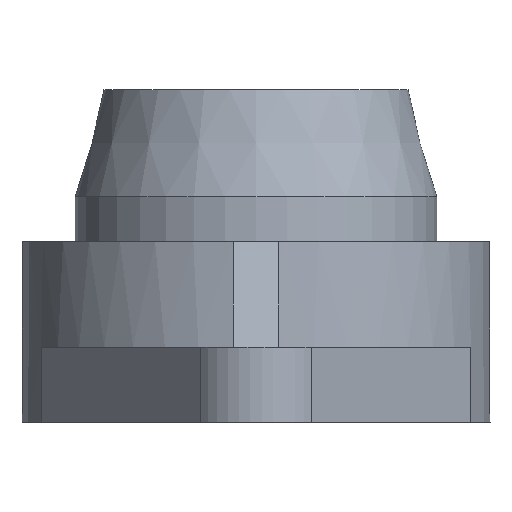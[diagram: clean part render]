
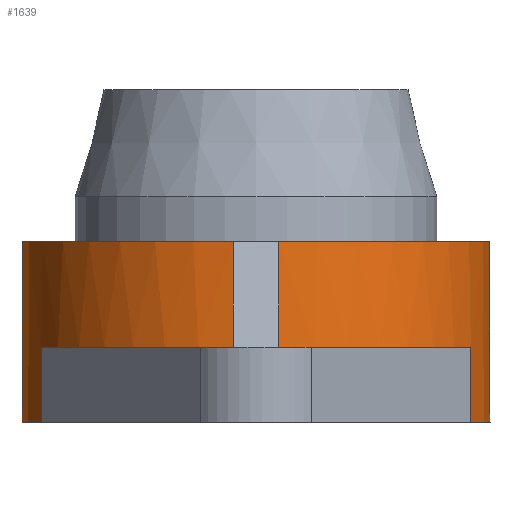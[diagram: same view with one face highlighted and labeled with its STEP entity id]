
A CAD part, front view. The second image highlights one B-rep face of the part: STEP entity #1639.
In plain terms, the highlighted cylindrical face has radius 41.5 mm (diameter 83 mm), a partial arc.
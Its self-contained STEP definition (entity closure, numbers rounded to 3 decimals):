
#132=FACE_BOUND('',#265,.T.);
#167=FACE_OUTER_BOUND('',#264,.T.);
#264=EDGE_LOOP('',(#1093,#1094,#1095,#1096,#1097,#1098,#1099,#1100));
#265=EDGE_LOOP('',(#1101,#1102));
#389=B_SPLINE_CURVE_WITH_KNOTS('',3,(#2636,#2637,#2638,#2639,#2640,#2641,
#2642,#2643,#2644,#2645,#2646,#2647,#2648,#2649,#2650,#2651,#2652,#2653),
 .UNSPECIFIED.,.F.,.F.,(4,2,2,2,2,2,2,2,4),(0.375,0.469,
0.563,0.656,0.75,0.844,
0.938,1.032,1.125),.UNSPECIFIED.);
#390=B_SPLINE_CURVE_WITH_KNOTS('',3,(#2654,#2655,#2656,#2657,#2658,#2659,
#2660,#2661,#2662,#2663,#2664,#2665,#2666,#2667,#2668,#2669,#2670,#2671,
#2672),.UNSPECIFIED.,.F.,.F.,(4,2,2,2,3,2,2,2,4),(1.125,1.219,
1.313,1.407,1.501,1.594,1.688,
1.782,1.876),.UNSPECIFIED.);
#402=LINE('',#2620,#491);
#403=LINE('',#2624,#492);
#404=LINE('',#2628,#493);
#405=LINE('',#2632,#494);
#491=VECTOR('',#2075,10.);
#492=VECTOR('',#2078,10.);
#493=VECTOR('',#2081,10.);
#494=VECTOR('',#2084,10.);
#586=CIRCLE('',#1851,41.5);
#587=CIRCLE('',#1852,41.5);
#588=CIRCLE('',#1853,41.5);
#589=CIRCLE('',#1854,41.5);
#693=VERTEX_POINT('',#2618);
#694=VERTEX_POINT('',#2619);
#695=VERTEX_POINT('',#2621);
#696=VERTEX_POINT('',#2623);
#697=VERTEX_POINT('',#2625);
#698=VERTEX_POINT('',#2627);
#699=VERTEX_POINT('',#2629);
#700=VERTEX_POINT('',#2631);
#701=VERTEX_POINT('',#2634);
#702=VERTEX_POINT('',#2635);
#856=EDGE_CURVE('',#693,#694,#402,.T.);
#857=EDGE_CURVE('',#695,#694,#586,.T.);
#858=EDGE_CURVE('',#696,#695,#403,.T.);
#859=EDGE_CURVE('',#696,#697,#587,.T.);
#860=EDGE_CURVE('',#697,#698,#404,.T.);
#861=EDGE_CURVE('',#699,#698,#588,.T.);
#862=EDGE_CURVE('',#699,#700,#405,.T.);
#863=EDGE_CURVE('',#700,#693,#589,.T.);
#864=EDGE_CURVE('',#701,#702,#389,.T.);
#865=EDGE_CURVE('',#702,#701,#390,.T.);
#1093=ORIENTED_EDGE('',*,*,#856,.T.);
#1094=ORIENTED_EDGE('',*,*,#857,.F.);
#1095=ORIENTED_EDGE('',*,*,#858,.F.);
#1096=ORIENTED_EDGE('',*,*,#859,.T.);
#1097=ORIENTED_EDGE('',*,*,#860,.T.);
#1098=ORIENTED_EDGE('',*,*,#861,.F.);
#1099=ORIENTED_EDGE('',*,*,#862,.T.);
#1100=ORIENTED_EDGE('',*,*,#863,.T.);
#1101=ORIENTED_EDGE('',*,*,#864,.T.);
#1102=ORIENTED_EDGE('',*,*,#865,.T.);
#1546=CYLINDRICAL_SURFACE('',#1850,41.5);
#1639=ADVANCED_FACE('',(#167,#132),#1546,.T.);
#1850=AXIS2_PLACEMENT_3D('',#2617,#2073,#2074);
#1851=AXIS2_PLACEMENT_3D('',#2622,#2076,#2077);
#1852=AXIS2_PLACEMENT_3D('',#2626,#2079,#2080);
#1853=AXIS2_PLACEMENT_3D('',#2630,#2082,#2083);
#1854=AXIS2_PLACEMENT_3D('',#2633,#2085,#2086);
#2073=DIRECTION('center_axis',(0.,0.,1.));
#2074=DIRECTION('ref_axis',(0.,1.,0.));
#2075=DIRECTION('',(0.,0.,-1.));
#2076=DIRECTION('center_axis',(0.,0.,
-1.));
#2077=DIRECTION('ref_axis',(-1.,0.,0.));
#2078=DIRECTION('',(0.,0.,1.));
#2079=DIRECTION('center_axis',(0.,0.,1.));
#2080=DIRECTION('ref_axis',(0.916,-0.402,0.));
#2081=DIRECTION('',(0.,0.,1.));
#2082=DIRECTION('center_axis',(0.,0.,
-1.));
#2083=DIRECTION('ref_axis',(-1.,0.,0.));
#2084=DIRECTION('',(0.,0.,1.));
#2085=DIRECTION('center_axis',(0.,0.,-1.));
#2086=DIRECTION('ref_axis',(-1.,0.,0.));
#2617=CARTESIAN_POINT('Origin',(0.,0.,-19.3));
#2618=CARTESIAN_POINT('',(4.,-41.307,12.7));
#2619=CARTESIAN_POINT('',(4.,-41.307,-6.));
#2620=CARTESIAN_POINT('',(4.,-41.307,-19.3));
#2621=CARTESIAN_POINT('',(38.,-16.681,-6.));
#2622=CARTESIAN_POINT('Origin',(0.,0.,-6.));
#2623=CARTESIAN_POINT('',(38.,-16.681,-19.3));
#2624=CARTESIAN_POINT('',(38.,-16.681,-19.3));
#2625=CARTESIAN_POINT('',(-38.,-16.681,-19.3));
#2626=CARTESIAN_POINT('Origin',(0.,0.,-19.3));
#2627=CARTESIAN_POINT('',(-38.,-16.681,-6.));
#2628=CARTESIAN_POINT('',(-38.,-16.681,-19.3));
#2629=CARTESIAN_POINT('',(-4.,-41.307,-6.));
#2630=CARTESIAN_POINT('Origin',(0.,0.,-6.));
#2631=CARTESIAN_POINT('',(-4.,-41.307,12.7));
#2632=CARTESIAN_POINT('',(-4.,-41.307,-19.3));
#2633=CARTESIAN_POINT('Origin',(0.,0.,12.7));
#2634=CARTESIAN_POINT('',(-29.345,29.345,2.211));
#2635=CARTESIAN_POINT('',(-29.345,29.345,7.189));
#2636=CARTESIAN_POINT('Ctrl Pts',(-29.345,29.345,2.211));
#2637=CARTESIAN_POINT('Ctrl Pts',(-29.124,29.566,2.211));
#2638=CARTESIAN_POINT('Ctrl Pts',(-28.885,29.799,2.273));
#2639=CARTESIAN_POINT('Ctrl Pts',(-28.442,30.223,2.528));
#2640=CARTESIAN_POINT('Ctrl Pts',(-28.237,30.413,2.719));
#2641=CARTESIAN_POINT('Ctrl Pts',(-27.911,30.713,3.161));
#2642=CARTESIAN_POINT('Ctrl Pts',(-27.769,30.841,3.441));
#2643=CARTESIAN_POINT('Ctrl Pts',(-27.579,31.011,4.054));
#2644=CARTESIAN_POINT('Ctrl Pts',(-27.532,31.052,4.387));
#2645=CARTESIAN_POINT('Ctrl Pts',(-27.532,31.052,5.013));
#2646=CARTESIAN_POINT('Ctrl Pts',(-27.579,31.011,5.346));
#2647=CARTESIAN_POINT('Ctrl Pts',(-27.769,30.841,5.959));
#2648=CARTESIAN_POINT('Ctrl Pts',(-27.911,30.713,6.239));
#2649=CARTESIAN_POINT('Ctrl Pts',(-28.237,30.413,6.681));
#2650=CARTESIAN_POINT('Ctrl Pts',(-28.442,30.223,6.872));
#2651=CARTESIAN_POINT('Ctrl Pts',(-28.885,29.799,7.127));
#2652=CARTESIAN_POINT('Ctrl Pts',(-29.124,29.566,7.189));
#2653=CARTESIAN_POINT('Ctrl Pts',(-29.345,29.345,7.189));
#2654=CARTESIAN_POINT('Ctrl Pts',(-29.345,29.345,7.189));
#2655=CARTESIAN_POINT('Ctrl Pts',(-29.566,29.124,7.189));
#2656=CARTESIAN_POINT('Ctrl Pts',(-29.799,28.885,7.127));
#2657=CARTESIAN_POINT('Ctrl Pts',(-30.223,28.442,6.872));
#2658=CARTESIAN_POINT('Ctrl Pts',(-30.413,28.237,6.681));
#2659=CARTESIAN_POINT('Ctrl Pts',(-30.713,27.911,6.239));
#2660=CARTESIAN_POINT('Ctrl Pts',(-30.841,27.769,5.959));
#2661=CARTESIAN_POINT('Ctrl Pts',(-31.011,27.579,5.346));
#2662=CARTESIAN_POINT('Ctrl Pts',(-31.052,27.532,5.013));
#2663=CARTESIAN_POINT('Ctrl Pts',(-31.052,27.532,4.7));
#2664=CARTESIAN_POINT('Ctrl Pts',(-31.052,27.532,4.387));
#2665=CARTESIAN_POINT('Ctrl Pts',(-31.011,27.579,4.054));
#2666=CARTESIAN_POINT('Ctrl Pts',(-30.841,27.769,3.441));
#2667=CARTESIAN_POINT('Ctrl Pts',(-30.713,27.911,3.161));
#2668=CARTESIAN_POINT('Ctrl Pts',(-30.413,28.237,2.719));
#2669=CARTESIAN_POINT('Ctrl Pts',(-30.223,28.442,2.528));
#2670=CARTESIAN_POINT('Ctrl Pts',(-29.799,28.885,2.273));
#2671=CARTESIAN_POINT('Ctrl Pts',(-29.566,29.124,2.211));
#2672=CARTESIAN_POINT('Ctrl Pts',(-29.345,29.345,2.211));
